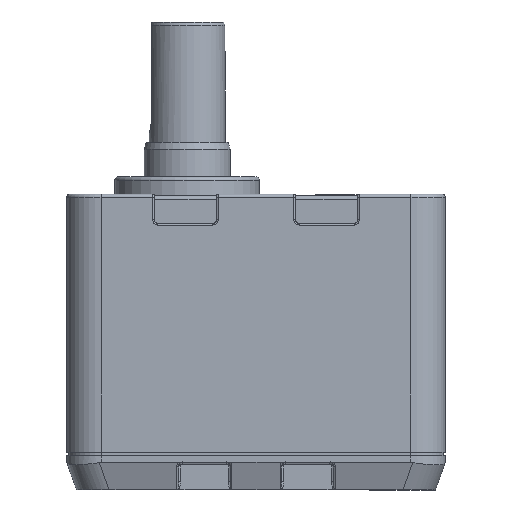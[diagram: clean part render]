
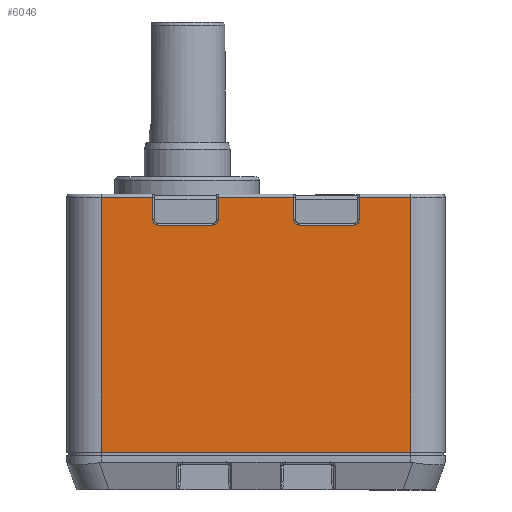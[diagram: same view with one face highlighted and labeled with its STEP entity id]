
A CAD part, left-side view. The second image highlights one B-rep face of the part: STEP entity #6046.
In plain terms, the highlighted planar face has unit normal (-1, 0, 0).
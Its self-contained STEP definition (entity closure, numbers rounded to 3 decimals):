
#2229=CARTESIAN_POINT('',(-110.,25.,86.488));
#2230=VERTEX_POINT('',#2229);
#2263=CARTESIAN_POINT('',(-110.,25.,79.988));
#2264=VERTEX_POINT('',#2263);
#2272=CARTESIAN_POINT('',(-110.,25.,79.988));
#2273=DIRECTION('',(0.0,0.0,1.0));
#2274=VECTOR('',#2273,6.5);
#2275=LINE('',#2272,#2274);
#2276=EDGE_CURVE('',#2264,#2230,#2275,.T.);
#2295=CARTESIAN_POINT('',(-110.,26.5,78.488));
#2296=VERTEX_POINT('',#2295);
#2304=CARTESIAN_POINT('',(-110.,26.5,79.988));
#2305=DIRECTION('',(-1.,0.,0.));
#2306=DIRECTION('',(0.,-0.707,-0.707));
#2307=AXIS2_PLACEMENT_3D('',#2304,#2305,#2306);
#2308=CIRCLE('',#2307,1.5);
#2309=EDGE_CURVE('',#2296,#2264,#2308,.T.);
#2329=CARTESIAN_POINT('',(-110.,42.5,78.488));
#2330=VERTEX_POINT('',#2329);
#2338=CARTESIAN_POINT('',(-110.,42.5,78.488));
#2339=DIRECTION('',(0.0,-1.0,0.0));
#2340=VECTOR('',#2339,16.);
#2341=LINE('',#2338,#2340);
#2342=EDGE_CURVE('',#2330,#2296,#2341,.T.);
#2361=CARTESIAN_POINT('',(-110.,44.,79.988));
#2362=VERTEX_POINT('',#2361);
#2370=CARTESIAN_POINT('',(-110.,42.5,79.988));
#2371=DIRECTION('',(-1.0,0.,0.));
#2372=DIRECTION('',(0.,0.707,-0.707));
#2373=AXIS2_PLACEMENT_3D('',#2370,#2371,#2372);
#2374=CIRCLE('',#2373,1.5);
#2375=EDGE_CURVE('',#2362,#2330,#2374,.T.);
#2395=CARTESIAN_POINT('',(-110.,44.,86.488));
#2396=VERTEX_POINT('',#2395);
#2404=CARTESIAN_POINT('',(-110.,44.,86.488));
#2405=DIRECTION('',(0.0,0.0,-1.0));
#2406=VECTOR('',#2405,6.5);
#2407=LINE('',#2404,#2406);
#2408=EDGE_CURVE('',#2396,#2362,#2407,.T.);
#2651=CARTESIAN_POINT('',(-110.,66.,86.488));
#2652=VERTEX_POINT('',#2651);
#2685=CARTESIAN_POINT('',(-110.,66.,79.988));
#2686=VERTEX_POINT('',#2685);
#2694=CARTESIAN_POINT('',(-110.,66.,79.988));
#2695=DIRECTION('',(0.0,0.0,1.0));
#2696=VECTOR('',#2695,6.5);
#2697=LINE('',#2694,#2696);
#2698=EDGE_CURVE('',#2686,#2652,#2697,.T.);
#2717=CARTESIAN_POINT('',(-110.,67.5,78.488));
#2718=VERTEX_POINT('',#2717);
#2726=CARTESIAN_POINT('',(-110.,67.5,79.988));
#2727=DIRECTION('',(-1.0,0.,0.));
#2728=DIRECTION('',(0.,-0.707,-0.707));
#2729=AXIS2_PLACEMENT_3D('',#2726,#2727,#2728);
#2730=CIRCLE('',#2729,1.5);
#2731=EDGE_CURVE('',#2718,#2686,#2730,.T.);
#2751=CARTESIAN_POINT('',(-110.,83.5,78.488));
#2752=VERTEX_POINT('',#2751);
#2760=CARTESIAN_POINT('',(-110.,83.5,78.488));
#2761=DIRECTION('',(0.0,-1.0,0.0));
#2762=VECTOR('',#2761,16.);
#2763=LINE('',#2760,#2762);
#2764=EDGE_CURVE('',#2752,#2718,#2763,.T.);
#2783=CARTESIAN_POINT('',(-110.,85.,79.988));
#2784=VERTEX_POINT('',#2783);
#2792=CARTESIAN_POINT('',(-110.,83.5,79.988));
#2793=DIRECTION('',(-1.,0.,0.));
#2794=DIRECTION('',(0.,0.707,-0.707));
#2795=AXIS2_PLACEMENT_3D('',#2792,#2793,#2794);
#2796=CIRCLE('',#2795,1.5);
#2797=EDGE_CURVE('',#2784,#2752,#2796,.T.);
#2817=CARTESIAN_POINT('',(-110.,85.,86.488));
#2818=VERTEX_POINT('',#2817);
#2826=CARTESIAN_POINT('',(-110.,85.,86.488));
#2827=DIRECTION('',(0.0,0.0,-1.0));
#2828=VECTOR('',#2827,6.5);
#2829=LINE('',#2826,#2828);
#2830=EDGE_CURVE('',#2818,#2784,#2829,.T.);
#5949=CARTESIAN_POINT('',(-110.,100.,86.488));
#5950=VERTEX_POINT('',#5949);
#5958=CARTESIAN_POINT('',(-110.,100.,86.488));
#5959=DIRECTION('',(0.0,-1.0,0.0));
#5960=VECTOR('',#5959,15.);
#5961=LINE('',#5958,#5960);
#5962=EDGE_CURVE('',#5950,#2818,#5961,.T.);
#5973=CARTESIAN_POINT('',(-110.,10.,86.488));
#5974=VERTEX_POINT('',#5973);
#5975=CARTESIAN_POINT('',(-110.,25.,86.488));
#5976=DIRECTION('',(0.0,-1.0,0.0));
#5977=VECTOR('',#5976,15.0);
#5978=LINE('',#5975,#5977);
#5979=EDGE_CURVE('',#2230,#5974,#5978,.T.);
#5999=CARTESIAN_POINT('',(-110.,110.,12.488));
#6000=DIRECTION('',(-1.0,0.0,0.0));
#6001=DIRECTION('',(0.0,0.0,-1.0));
#6002=AXIS2_PLACEMENT_3D('',#5999,#6000,#6001);
#6003=PLANE('',#6002);
#6004=ORIENTED_EDGE('',*,*,#2830,.F.);
#6005=ORIENTED_EDGE('',*,*,#5962,.F.);
#6006=CARTESIAN_POINT('',(-110.,100.,12.488));
#6007=VERTEX_POINT('',#6006);
#6008=CARTESIAN_POINT('',(-110.,100.,12.488));
#6009=DIRECTION('',(0.0,0.0,1.0));
#6010=VECTOR('',#6009,74.0);
#6011=LINE('',#6008,#6010);
#6012=EDGE_CURVE('',#6007,#5950,#6011,.T.);
#6013=ORIENTED_EDGE('',*,*,#6012,.F.);
#6014=CARTESIAN_POINT('',(-110.,10.,12.488));
#6015=VERTEX_POINT('',#6014);
#6016=CARTESIAN_POINT('',(-110.,100.,12.488));
#6017=DIRECTION('',(0.0,-1.0,0.0));
#6018=VECTOR('',#6017,90.0);
#6019=LINE('',#6016,#6018);
#6020=EDGE_CURVE('',#6007,#6015,#6019,.T.);
#6021=ORIENTED_EDGE('',*,*,#6020,.T.);
#6022=CARTESIAN_POINT('',(-110.,10.,86.488));
#6023=DIRECTION('',(0.0,0.0,-1.0));
#6024=VECTOR('',#6023,74.);
#6025=LINE('',#6022,#6024);
#6026=EDGE_CURVE('',#5974,#6015,#6025,.T.);
#6027=ORIENTED_EDGE('',*,*,#6026,.F.);
#6028=ORIENTED_EDGE('',*,*,#5979,.F.);
#6029=ORIENTED_EDGE('',*,*,#2276,.F.);
#6030=ORIENTED_EDGE('',*,*,#2309,.F.);
#6031=ORIENTED_EDGE('',*,*,#2342,.F.);
#6032=ORIENTED_EDGE('',*,*,#2375,.F.);
#6033=ORIENTED_EDGE('',*,*,#2408,.F.);
#6034=CARTESIAN_POINT('',(-110.,66.,86.488));
#6035=DIRECTION('',(0.0,-1.0,0.0));
#6036=VECTOR('',#6035,22.);
#6037=LINE('',#6034,#6036);
#6038=EDGE_CURVE('',#2652,#2396,#6037,.T.);
#6039=ORIENTED_EDGE('',*,*,#6038,.F.);
#6040=ORIENTED_EDGE('',*,*,#2698,.F.);
#6041=ORIENTED_EDGE('',*,*,#2731,.F.);
#6042=ORIENTED_EDGE('',*,*,#2764,.F.);
#6043=ORIENTED_EDGE('',*,*,#2797,.F.);
#6044=EDGE_LOOP('',(#6004,#6005,#6013,#6021,#6027,#6028,#6029,#6030,#6031,#6032,#6033,#6039,#6040,#6041,#6042,#6043));
#6045=FACE_OUTER_BOUND('',#6044,.T.);
#6046=ADVANCED_FACE('',(#6045),#6003,.T.);
